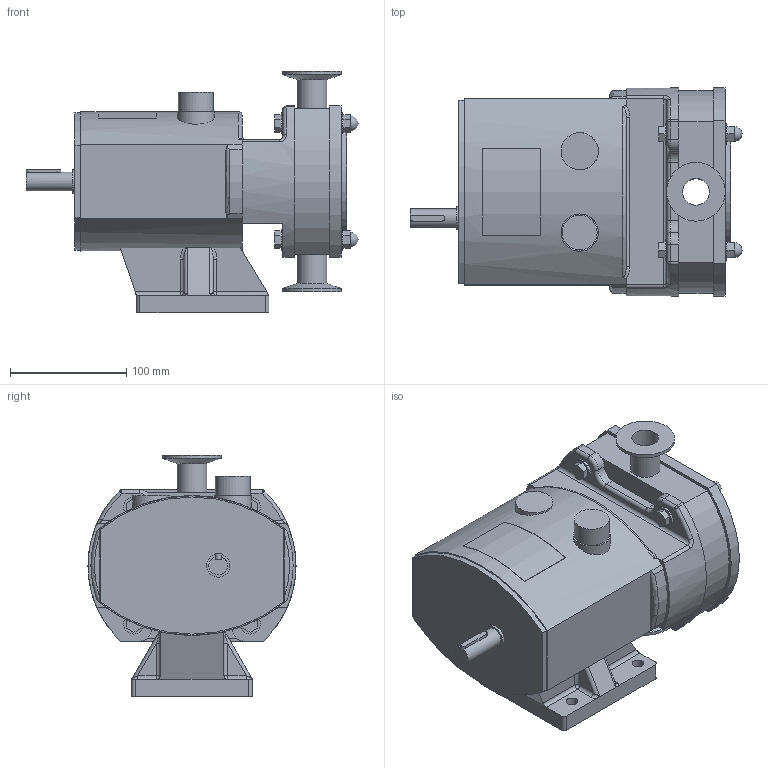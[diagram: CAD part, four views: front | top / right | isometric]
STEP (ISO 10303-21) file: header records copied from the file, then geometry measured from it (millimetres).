
FILE_DESCRIPTION(/* description */ ('アルファラバル'),/* implementation_level */ '2;1');
FILE_NAME(/* name */ 'C:\Users\Fujimoto-s\OneDrive\Inventor\WorkSpace\\X2\305D306E4ED6\X0\\ホームページ用\\X2\30C030A630F330ED30FC30C97D206750\X0\\ポンプ類\SRU／008／HD\SRU／008／HD.stp',/* time_stamp */ '2024-08-09T15:17:36+09:00',/* author */ ('Fujimoto-s'),/* organization */ (''),/* preprocessor_version */ 'ST-DEVELOPER v15.2',/* originating_system */ 'Autodesk Inventor 2014',/* authorisation */ '');
FILE_SCHEMA (('AUTOMOTIVE_DESIGN { 1 0 10303 214 3 1 1 }'));
Length unit declared in the file: millimetre
Products named in the file (1): SRU／008／HD
Bounding box: 285.6 x 179 x 208 mm (x, y, z)
Volume: 4261492.7 mm3; surface area: 231544.2 mm2
Topology: 1 solids, 1 shells, 252 faces, 612 edges, 387 vertices
Faces by surface type: plane 140, cylinder 79, bspline 12, sphere 10, torus 9, cone 2
Full cylindrical faces by diameter (mm): 10 x4, 12.5 x4, 16 x1, 18 x8, 20 x1, 23 x1, 25.4 x2, 30 x1, 32 x2, 50.5 x2, 100 x1
Entity records: 7804 total; most frequent: CARTESIAN_POINT 1887, DIRECTION 1207, ORIENTED_EDGE 1126, EDGE_CURVE 563, AXIS2_PLACEMENT_3D 436, VERTEX_POINT 373, LINE 335, VECTOR 335
